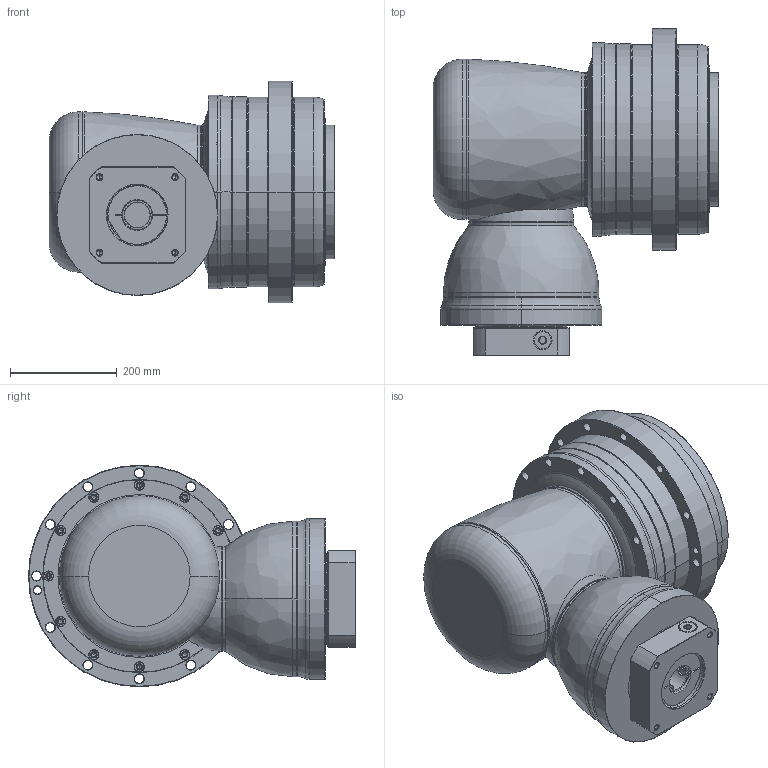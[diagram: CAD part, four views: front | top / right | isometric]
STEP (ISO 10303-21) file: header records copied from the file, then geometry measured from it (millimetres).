
FILE_DESCRIPTION((''),'2;1');
FILE_NAME('AHK355_2ST_48-P0409B00101_ASM','2016-08-24T',('d01943'),(''),'PRO/ENGINEER BY PARAMETRIC TECHNOLOGY CORPORATION, 2008410','PRO/ENGINEER BY PARAMETRIC TECHNOLOGY CORPORATION, 2008410','');
FILE_SCHEMA(('CONFIG_CONTROL_DESIGN'));
Length unit declared in the file: millimetre
Products named in the file (12): P1008800002; P1831100001; P0276100003; P0357100003; P1315800001; P1007800001; P1318800301; P0409B00101; P0503B00016; P0912803201; 21711426021; AHK355_2ST_48-P0409B00101_ASM
Assembly tree (11 placements, depth 2):
  AHK355_2ST_48-P0409B00101_ASM
    P1008800002
    P1831100001
    P0276100003
    P0357100003
    P1315800001
    P1007800001
    P1318800301
    P0409B00101
    P0503B00016
    P0912803201
    21711426021
Bounding box: 535 x 612 x 415 mm (x, y, z)
Volume: 44167033.4 mm3; surface area: 2369344.1 mm2
Topology: 12 solids, 12 shells, 962 faces, 2135 edges, 1233 vertices
Faces by surface type: cylinder 343, cone 338, torus 130, plane 125, bspline 24, sphere 2
Entity records: 31922 total; most frequent: CARTESIAN_POINT 9904, DIRECTION 5095, ORIENTED_EDGE 4154, AXIS2_PLACEMENT_3D 2173, EDGE_CURVE 2077, VERTEX_POINT 1233, CIRCLE 1212, EDGE_LOOP 1158
